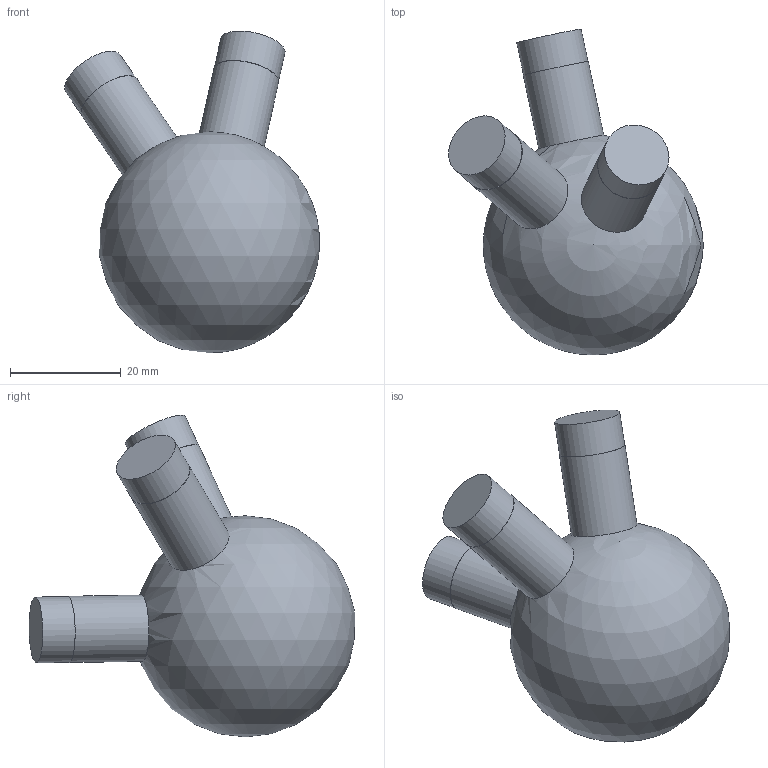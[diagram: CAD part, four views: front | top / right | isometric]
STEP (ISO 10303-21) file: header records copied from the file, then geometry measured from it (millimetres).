
FILE_DESCRIPTION(('Open CASCADE Model'),'2;1');
FILE_NAME('Open CASCADE Shape Model','2026-10-21T12:47:57',('Author'),( 'Open CASCADE'),'Open CASCADE STEP processor 7.9','Open CASCADE 7.9' ,'Unknown');
FILE_SCHEMA(('AUTOMOTIVE_DESIGN { 1 0 10303 214 1 1 1 1 }'));
Length unit declared in the file: millimetre
Products named in the file (1): Open CASCADE STEP translator 7.9 82
Bounding box: 46.11 x 58.94 x 58.22 mm (x, y, z)
Volume: 40397.5 mm3; surface area: 7372.4 mm2
Topology: 1 solids, 1 shells, 13 faces, 21 edges, 14 vertices
Faces by surface type: cylinder 6, plane 6, sphere 1
Full cylindrical faces by diameter (mm): 11.9 x3, 12 x3
Entity records: 746 total; most frequent: CARTESIAN_POINT 301, DIRECTION 91, ORIENTED_EDGE 36, PCURVE 36, DEFINITIONAL_REPRESENTATION 36, LINE 30, VECTOR 30, AXIS2_PLACEMENT_3D 26
